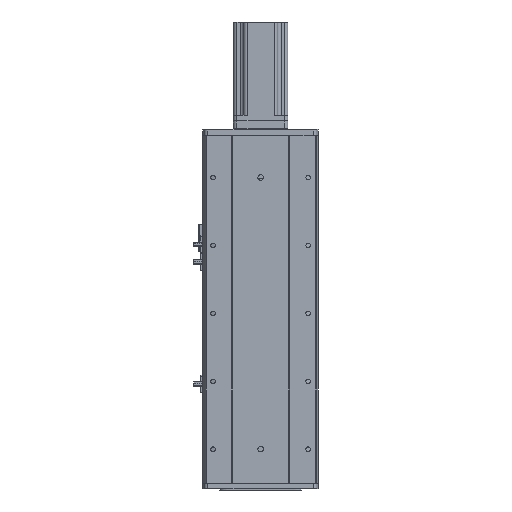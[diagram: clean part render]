
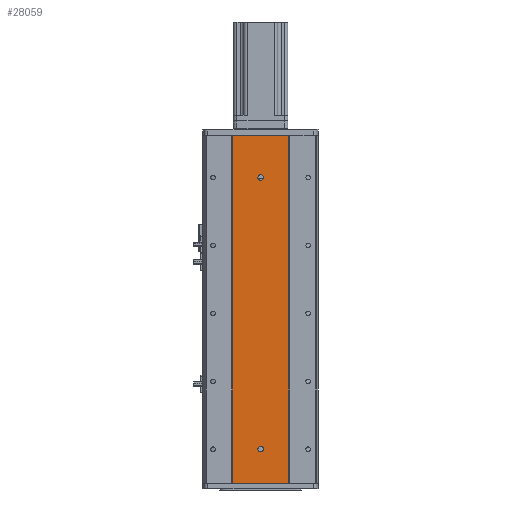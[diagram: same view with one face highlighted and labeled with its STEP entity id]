
A CAD part, front view. The second image highlights one B-rep face of the part: STEP entity #28059.
In plain terms, the highlighted planar face has unit normal (0, -1, 0).
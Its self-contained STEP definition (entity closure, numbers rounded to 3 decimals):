
#11777 = FACE_OUTER_BOUND ( 'NONE', #52964, .T. ) ;
#11781 = FACE_BOUND ( 'NONE', #52975, .T. ) ;
#11813 = FACE_BOUND ( 'NONE', #52980, .T. ) ;
#15865 = CARTESIAN_POINT ( 'NONE',  ( 5085.384, 335.574, 512. ) ) ;
#15895 = CARTESIAN_POINT ( 'NONE',  ( 5168.555, 335.574, 512. ) ) ;
#16114 = CARTESIAN_POINT ( 'NONE',  ( 5168.555, 335.574, 0. ) ) ;
#16180 = CARTESIAN_POINT ( 'NONE',  ( 5085.384, 335.574, 0. ) ) ;
#17304 = CARTESIAN_POINT ( 'NONE',  ( 5126.969, 335.574, 454. ) ) ;
#17332 = CARTESIAN_POINT ( 'NONE',  ( 5126.969, 335.574, 446. ) ) ;
#17346 = CARTESIAN_POINT ( 'NONE',  ( 5126.969, 335.574, 54. ) ) ;
#17347 = CARTESIAN_POINT ( 'NONE',  ( 5126.969, 335.574, 46. ) ) ;
#18889 = PLANE ( 'NONE',  #25895 ) ;
#18898 = DIRECTION ( 'NONE',  ( -1., 0., 0. ) ) ;
#18901 = CARTESIAN_POINT ( 'NONE',  ( 5085.384, 335.574, 512. ) ) ;
#18930 = DIRECTION ( 'NONE',  ( 0., 1., 0. ) ) ;
#25895 = AXIS2_PLACEMENT_3D ( 'NONE', #18901, #18930, #18898 ) ;
#28059 = ADVANCED_FACE ( 'NONE', ( #11813, #11781, #11777 ), #18889, .F. ) ;
#32725 = VECTOR ( 'NONE', #35859, 1000. ) ;
#32735 = LINE ( 'NONE', #35930, #32725 ) ;
#33539 = VECTOR ( 'NONE', #36834, 1000. ) ;
#33553 = LINE ( 'NONE', #36800, #33539 ) ;
#33578 = LINE ( 'NONE', #36857, #33607 ) ;
#33607 = VECTOR ( 'NONE', #36858, 1000. ) ;
#33693 = VECTOR ( 'NONE', #37057, 1000. ) ;
#33702 = LINE ( 'NONE', #37029, #33693 ) ;
#33704 = CIRCLE ( 'NONE', #42633, 4. ) ;
#33741 = CIRCLE ( 'NONE', #42613, 4. ) ;
#34414 = EDGE_CURVE ( 'NONE', #62905, #62912, #49879, .T. ) ;
#34475 = EDGE_CURVE ( 'NONE', #62994, #62995, #50088, .T. ) ;
#34971 = EDGE_CURVE ( 'NONE', #53325, #53309, #32735, .T. ) ;
#35469 = EDGE_CURVE ( 'NONE', #53309, #53479, #33553, .T. ) ;
#35492 = EDGE_CURVE ( 'NONE', #53534, #53479, #33578, .T. ) ;
#35614 = EDGE_CURVE ( 'NONE', #62995, #62994, #33704, .T. ) ;
#35618 = EDGE_CURVE ( 'NONE', #53325, #53534, #33702, .T. ) ;
#35629 = EDGE_CURVE ( 'NONE', #62912, #62905, #33741, .T. ) ;
#35859 = DIRECTION ( 'NONE',  ( 1., 0., 0. ) ) ;
#35930 = CARTESIAN_POINT ( 'NONE',  ( 5085.384, 335.574, 512. ) ) ;
#36800 = CARTESIAN_POINT ( 'NONE',  ( 5168.555, 335.574, 512. ) ) ;
#36834 = DIRECTION ( 'NONE',  ( 0., 0., -1. ) ) ;
#36857 = CARTESIAN_POINT ( 'NONE',  ( 5085.384, 335.574, 0. ) ) ;
#36858 = DIRECTION ( 'NONE',  ( 1., 0., 0. ) ) ;
#37029 = CARTESIAN_POINT ( 'NONE',  ( 5085.384, 335.574, 512. ) ) ;
#37035 = DIRECTION ( 'NONE',  ( 0., 1., 0. ) ) ;
#37036 = DIRECTION ( 'NONE',  ( -1., 0., 0. ) ) ;
#37042 = CARTESIAN_POINT ( 'NONE',  ( 5126.969, 335.574, 50. ) ) ;
#37057 = DIRECTION ( 'NONE',  ( 0., 0., -1. ) ) ;
#37065 = DIRECTION ( 'NONE',  ( 0., 1., 0. ) ) ;
#37073 = CARTESIAN_POINT ( 'NONE',  ( 5126.969, 335.574, 450. ) ) ;
#37074 = DIRECTION ( 'NONE',  ( -1., 0., 0. ) ) ;
#40224 = CARTESIAN_POINT ( 'NONE',  ( 5126.969, 335.574, 450. ) ) ;
#40251 = DIRECTION ( 'NONE',  ( -1., 0., 0. ) ) ;
#40255 = DIRECTION ( 'NONE',  ( 0., 1., 0. ) ) ;
#40449 = DIRECTION ( 'NONE',  ( -1., 0., 0. ) ) ;
#40461 = DIRECTION ( 'NONE',  ( 0., 1., 0. ) ) ;
#40481 = CARTESIAN_POINT ( 'NONE',  ( 5126.969, 335.574, 50. ) ) ;
#42301 = AXIS2_PLACEMENT_3D ( 'NONE', #40481, #40461, #40449 ) ;
#42347 = AXIS2_PLACEMENT_3D ( 'NONE', #40224, #40255, #40251 ) ;
#42613 = AXIS2_PLACEMENT_3D ( 'NONE', #37073, #37065, #37074 ) ;
#42633 = AXIS2_PLACEMENT_3D ( 'NONE', #37042, #37035, #37036 ) ;
#49879 = CIRCLE ( 'NONE', #42347, 4. ) ;
#50088 = CIRCLE ( 'NONE', #42301, 4. ) ;
#52964 = EDGE_LOOP ( 'NONE', ( #59229, #59236, #59178, #59181 ) ) ;
#52975 = EDGE_LOOP ( 'NONE', ( #59207, #59176 ) ) ;
#52980 = EDGE_LOOP ( 'NONE', ( #59250, #59151 ) ) ;
#53309 = VERTEX_POINT ( 'NONE', #15895 ) ;
#53325 = VERTEX_POINT ( 'NONE', #15865 ) ;
#53479 = VERTEX_POINT ( 'NONE', #16114 ) ;
#53534 = VERTEX_POINT ( 'NONE', #16180 ) ;
#59151 = ORIENTED_EDGE ( 'NONE', *, *, #35629, .T. ) ;
#59176 = ORIENTED_EDGE ( 'NONE', *, *, #35614, .T. ) ;
#59178 = ORIENTED_EDGE ( 'NONE', *, *, #34971, .F. ) ;
#59181 = ORIENTED_EDGE ( 'NONE', *, *, #35618, .T. ) ;
#59207 = ORIENTED_EDGE ( 'NONE', *, *, #34475, .T. ) ;
#59229 = ORIENTED_EDGE ( 'NONE', *, *, #35492, .T. ) ;
#59236 = ORIENTED_EDGE ( 'NONE', *, *, #35469, .F. ) ;
#59250 = ORIENTED_EDGE ( 'NONE', *, *, #34414, .T. ) ;
#62905 = VERTEX_POINT ( 'NONE', #17332 ) ;
#62912 = VERTEX_POINT ( 'NONE', #17304 ) ;
#62994 = VERTEX_POINT ( 'NONE', #17347 ) ;
#62995 = VERTEX_POINT ( 'NONE', #17346 ) ;
